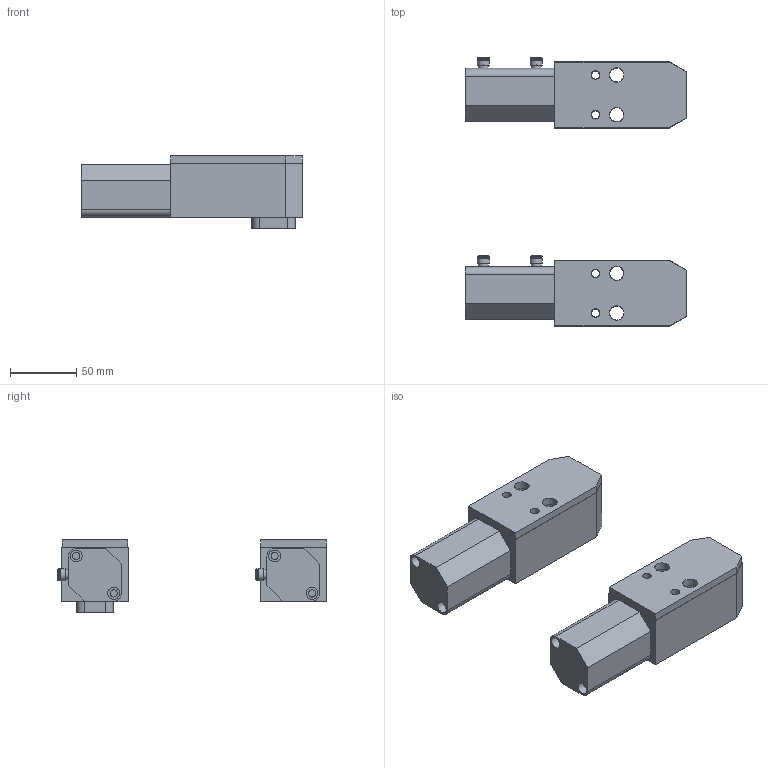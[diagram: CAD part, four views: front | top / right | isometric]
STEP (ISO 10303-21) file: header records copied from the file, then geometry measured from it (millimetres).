
FILE_DESCRIPTION(('STEP AP214'),'1');
FILE_NAME('1003.0013.stp','2020-05-22T14:12:36',(' '),(' '),'Spatial InterOp 3D',' ',' ');
FILE_SCHEMA(('AUTOMOTIVE_DESIGN { 1 0 10303 214 1 1 1 1 }'));
Length unit declared in the file: millimetre
Products named in the file (7): (PMS) 1003.0013; 3; 2; Assemblato; (PMI) 1003.0013; 6; 5
Assembly tree (6 placements, depth 3):
  Assemblato
    (PMS) 1003.0013
      3
      2
    (PMI) 1003.0013
      6
      5
Bounding box: 167.5 x 203.25 x 55 mm (x, y, z)
Volume: 602580.2 mm3; surface area: 110401.5 mm2
Topology: 4 solids, 4 shells, 794 faces, 2112 edges, 1408 vertices
Faces by surface type: extrusion 420, plane 250, cylinder 106, torus 12, cone 4, sphere 2
Full cylindrical faces by diameter (mm): 5.5 x4, 6 x4, 6.5 x4, 6.8 x4, 7.5 x8, 9 x12, 10.5 x4, 11 x4, 13 x2, 16.9 x4
Entity records: 31316 total; most frequent: CARTESIAN_POINT 6807, ORIENTED_EDGE 4052, DIRECTION 2598, EDGE_CURVE 2026, VERTEX_POINT 1390, VECTOR 1376, B_SPLINE_CURVE_WITH_KNOTS 1262, EDGE_LOOP 960
